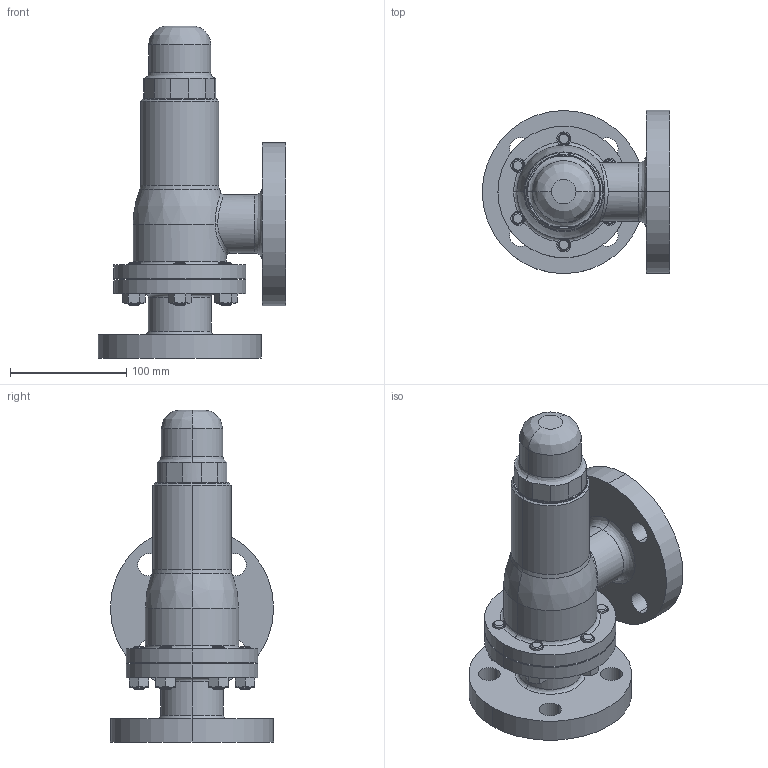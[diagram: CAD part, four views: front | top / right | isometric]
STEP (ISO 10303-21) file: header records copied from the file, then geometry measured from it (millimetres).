
FILE_DESCRIPTION( (''), '2;1');
FILE_NAME ('PC1029.10648.AL-300,301,300T,301T 40A_5897.stp','2024-12-13T15:03:07',(''),(''),'spGate 19.8.4 (****-****-****-****)','','');
FILE_SCHEMA (('AUTOMOTIVE_DESIGN'));
Length unit declared in the file: millimetre
Products named in the file (4): Assembly; ばね箱・弁箱　40A; スタッドボルト＆ナット32-50A; AL-300 32-50A キャップ
Assembly tree (8 placements, depth 2):
  Assembly
    ばね箱・弁箱　40A
    スタッドボルト＆ナット32-50A  x6
    AL-300 32-50A キャップ
Bounding box: 161 x 140 x 285 mm (x, y, z)
Volume: 1666107.8 mm3; surface area: 189002.2 mm2
Topology: 8 solids, 8 shells, 238 faces, 582 edges, 375 vertices
Faces by surface type: cylinder 96, plane 86, bspline 56
Entity records: 8411 total; most frequent: CARTESIAN_POINT 2248, ORIENTED_EDGE 714, DIRECTION 670, COLOUR_RGB 498, PRESENTATION_STYLE_ASSIGNMENT 498, STYLED_ITEM 498, EDGE_CURVE 357, DRAUGHTING_PRE_DEFINED_CURVE_FONT 357
